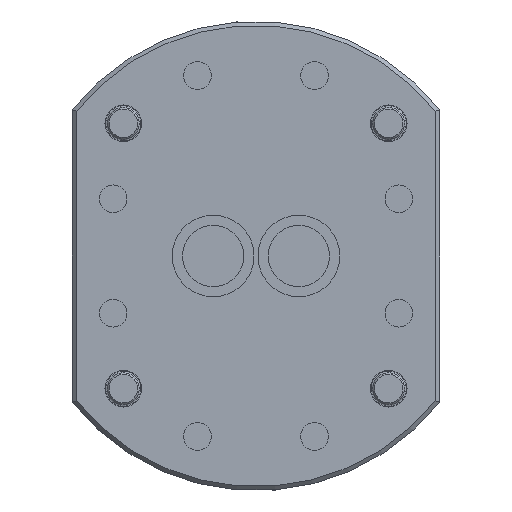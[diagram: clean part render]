
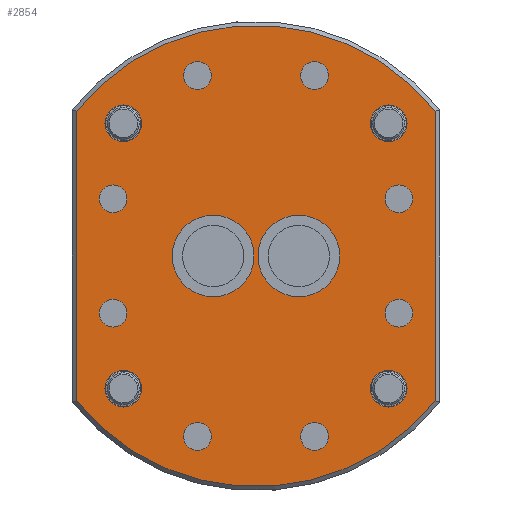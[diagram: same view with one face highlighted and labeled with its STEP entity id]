
A CAD part, front view. The second image highlights one B-rep face of the part: STEP entity #2854.
In plain terms, the highlighted planar face has unit normal (0, -1, 0).
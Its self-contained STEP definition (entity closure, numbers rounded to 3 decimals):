
#2854=ADVANCED_FACE('',(#5357,#5358,#5359,#5360,#5361,#5362,#5363,#5364,
#5365,#5366,#5367,#5368,#5369,#5370,#5371),#3738,.F.);
#3738=PLANE('',#14397);
#4103=LINE('',#19807,#4728);
#4104=LINE('',#19811,#4729);
#4728=VECTOR('',#15999,1.);
#4729=VECTOR('',#16002,1.);
#5357=FACE_BOUND('',#6036,.T.);
#5358=FACE_BOUND('',#6037,.T.);
#5359=FACE_BOUND('',#6038,.T.);
#5360=FACE_BOUND('',#6039,.T.);
#5361=FACE_BOUND('',#6040,.T.);
#5362=FACE_BOUND('',#6041,.T.);
#5363=FACE_BOUND('',#6042,.T.);
#5364=FACE_BOUND('',#6043,.T.);
#5365=FACE_BOUND('',#6044,.T.);
#5366=FACE_BOUND('',#6045,.T.);
#5367=FACE_BOUND('',#6046,.T.);
#5368=FACE_BOUND('',#6047,.T.);
#5369=FACE_BOUND('',#6048,.T.);
#5370=FACE_BOUND('',#6049,.T.);
#5371=FACE_BOUND('',#6050,.T.);
#6036=EDGE_LOOP('',(#7290));
#6037=EDGE_LOOP('',(#7291));
#6038=EDGE_LOOP('',(#7292));
#6039=EDGE_LOOP('',(#7293));
#6040=EDGE_LOOP('',(#7294));
#6041=EDGE_LOOP('',(#7295));
#6042=EDGE_LOOP('',(#7296));
#6043=EDGE_LOOP('',(#7297));
#6044=EDGE_LOOP('',(#7298));
#6045=EDGE_LOOP('',(#7299));
#6046=EDGE_LOOP('',(#7300));
#6047=EDGE_LOOP('',(#7301));
#6048=EDGE_LOOP('',(#7302,#7303,#7304,#7305));
#6049=EDGE_LOOP('',(#7306));
#6050=EDGE_LOOP('',(#7307));
#7290=ORIENTED_EDGE('',*,*,#11723,.T.);
#7291=ORIENTED_EDGE('',*,*,#11724,.T.);
#7292=ORIENTED_EDGE('',*,*,#11725,.T.);
#7293=ORIENTED_EDGE('',*,*,#11726,.T.);
#7294=ORIENTED_EDGE('',*,*,#11727,.T.);
#7295=ORIENTED_EDGE('',*,*,#11728,.T.);
#7296=ORIENTED_EDGE('',*,*,#11729,.T.);
#7297=ORIENTED_EDGE('',*,*,#11730,.T.);
#7298=ORIENTED_EDGE('',*,*,#11731,.T.);
#7299=ORIENTED_EDGE('',*,*,#11732,.T.);
#7300=ORIENTED_EDGE('',*,*,#11733,.F.);
#7301=ORIENTED_EDGE('',*,*,#11734,.F.);
#7302=ORIENTED_EDGE('',*,*,#11735,.T.);
#7303=ORIENTED_EDGE('',*,*,#11736,.T.);
#7304=ORIENTED_EDGE('',*,*,#11737,.T.);
#7305=ORIENTED_EDGE('',*,*,#11738,.T.);
#7306=ORIENTED_EDGE('',*,*,#11739,.T.);
#7307=ORIENTED_EDGE('',*,*,#11740,.T.);
#10608=VERTEX_POINT('',#19781);
#10609=VERTEX_POINT('',#19783);
#10610=VERTEX_POINT('',#19785);
#10611=VERTEX_POINT('',#19787);
#10612=VERTEX_POINT('',#19789);
#10613=VERTEX_POINT('',#19791);
#10614=VERTEX_POINT('',#19793);
#10615=VERTEX_POINT('',#19795);
#10616=VERTEX_POINT('',#19797);
#10617=VERTEX_POINT('',#19799);
#10618=VERTEX_POINT('',#19801);
#10619=VERTEX_POINT('',#19803);
#10620=VERTEX_POINT('',#19805);
#10621=VERTEX_POINT('',#19806);
#10622=VERTEX_POINT('',#19808);
#10623=VERTEX_POINT('',#19810);
#10624=VERTEX_POINT('',#19813);
#10625=VERTEX_POINT('',#19815);
#11723=EDGE_CURVE('',#10608,#10608,#13382,.T.);
#11724=EDGE_CURVE('',#10609,#10609,#13383,.T.);
#11725=EDGE_CURVE('',#10610,#10610,#13384,.T.);
#11726=EDGE_CURVE('',#10611,#10611,#13385,.T.);
#11727=EDGE_CURVE('',#10612,#10612,#13386,.T.);
#11728=EDGE_CURVE('',#10613,#10613,#13387,.T.);
#11729=EDGE_CURVE('',#10614,#10614,#13388,.T.);
#11730=EDGE_CURVE('',#10615,#10615,#13389,.T.);
#11731=EDGE_CURVE('',#10616,#10616,#13390,.T.);
#11732=EDGE_CURVE('',#10617,#10617,#13391,.T.);
#11733=EDGE_CURVE('',#10618,#10618,#13392,.T.);
#11734=EDGE_CURVE('',#10619,#10619,#13393,.T.);
#11735=EDGE_CURVE('',#10620,#10621,#13394,.T.);
#11736=EDGE_CURVE('',#10621,#10622,#4103,.T.);
#11737=EDGE_CURVE('',#10622,#10623,#13395,.T.);
#11738=EDGE_CURVE('',#10623,#10620,#4104,.T.);
#11739=EDGE_CURVE('',#10624,#10624,#13396,.T.);
#11740=EDGE_CURVE('',#10625,#10625,#13397,.T.);
#13382=CIRCLE('',#14381,3.4);
#13383=CIRCLE('',#14382,3.4);
#13384=CIRCLE('',#14383,3.4);
#13385=CIRCLE('',#14384,3.4);
#13386=CIRCLE('',#14385,3.4);
#13387=CIRCLE('',#14386,4.5);
#13388=CIRCLE('',#14387,4.5);
#13389=CIRCLE('',#14388,4.5);
#13390=CIRCLE('',#14389,4.5);
#13391=CIRCLE('',#14390,3.4);
#13392=CIRCLE('',#14391,10.);
#13393=CIRCLE('',#14392,10.);
#13394=CIRCLE('',#14393,56.5);
#13395=CIRCLE('',#14394,56.5);
#13396=CIRCLE('',#14395,3.4);
#13397=CIRCLE('',#14396,3.4);
#14381=AXIS2_PLACEMENT_3D('',#19780,#15973,#15974);
#14382=AXIS2_PLACEMENT_3D('',#19782,#15975,#15976);
#14383=AXIS2_PLACEMENT_3D('',#19784,#15977,#15978);
#14384=AXIS2_PLACEMENT_3D('',#19786,#15979,#15980);
#14385=AXIS2_PLACEMENT_3D('',#19788,#15981,#15982);
#14386=AXIS2_PLACEMENT_3D('',#19790,#15983,#15984);
#14387=AXIS2_PLACEMENT_3D('',#19792,#15985,#15986);
#14388=AXIS2_PLACEMENT_3D('',#19794,#15987,#15988);
#14389=AXIS2_PLACEMENT_3D('',#19796,#15989,#15990);
#14390=AXIS2_PLACEMENT_3D('',#19798,#15991,#15992);
#14391=AXIS2_PLACEMENT_3D('',#19800,#15993,#15994);
#14392=AXIS2_PLACEMENT_3D('',#19802,#15995,#15996);
#14393=AXIS2_PLACEMENT_3D('',#19804,#15997,#15998);
#14394=AXIS2_PLACEMENT_3D('',#19809,#16000,#16001);
#14395=AXIS2_PLACEMENT_3D('',#19812,#16003,#16004);
#14396=AXIS2_PLACEMENT_3D('',#19814,#16005,#16006);
#14397=AXIS2_PLACEMENT_3D('',#19816,#16007,#16008);
#15973=DIRECTION('',(0.,1.,0.));
#15974=DIRECTION('',(0.,0.,1.));
#15975=DIRECTION('',(0.,1.,0.));
#15976=DIRECTION('',(0.,0.,1.));
#15977=DIRECTION('',(0.,1.,0.));
#15978=DIRECTION('',(0.,0.,-1.));
#15979=DIRECTION('',(0.,1.,0.));
#15980=DIRECTION('',(0.,0.,-1.));
#15981=DIRECTION('',(0.,1.,0.));
#15982=DIRECTION('',(0.,0.,1.));
#15983=DIRECTION('',(0.,1.,0.));
#15984=DIRECTION('',(0.,0.,1.));
#15985=DIRECTION('',(0.,1.,0.));
#15986=DIRECTION('',(0.,0.,1.));
#15987=DIRECTION('',(0.,1.,0.));
#15988=DIRECTION('',(0.,0.,1.));
#15989=DIRECTION('',(0.,1.,0.));
#15990=DIRECTION('',(0.,0.,1.));
#15991=DIRECTION('',(0.,1.,0.));
#15992=DIRECTION('',(0.,0.,1.));
#15993=DIRECTION('',(0.,-1.,0.));
#15994=DIRECTION('',(1.,0.,0.));
#15995=DIRECTION('',(0.,-1.,0.));
#15996=DIRECTION('',(1.,0.,0.));
#15997=DIRECTION('',(0.,-1.,0.));
#15998=DIRECTION('',(0.,0.,1.));
#15999=DIRECTION('',(0.,0.,-1.));
#16000=DIRECTION('',(0.,-1.,0.));
#16001=DIRECTION('',(0.,0.,1.));
#16002=DIRECTION('',(0.,0.,1.));
#16003=DIRECTION('',(0.,1.,0.));
#16004=DIRECTION('',(0.,0.,1.));
#16005=DIRECTION('',(0.,1.,0.));
#16006=DIRECTION('',(0.,0.,1.));
#16007=DIRECTION('',(0.,1.,0.));
#16008=DIRECTION('',(0.,0.,-1.));
#19780=CARTESIAN_POINT('',(80.,-3.,-34.5));
#19781=CARTESIAN_POINT('',(80.,-3.,-31.1));
#19782=CARTESIAN_POINT('',(10.,-3.,-62.5));
#19783=CARTESIAN_POINT('',(10.,-3.,-59.1));
#19784=CARTESIAN_POINT('',(30.661,-3.,-92.682));
#19785=CARTESIAN_POINT('',(30.661,-3.,-96.082));
#19786=CARTESIAN_POINT('',(59.339,-3.,-92.682));
#19787=CARTESIAN_POINT('',(59.339,-3.,-96.082));
#19788=CARTESIAN_POINT('',(30.661,-3.,-4.318));
#19789=CARTESIAN_POINT('',(30.661,-3.,-0.918));
#19790=CARTESIAN_POINT('',(77.5,-3.,-16.));
#19791=CARTESIAN_POINT('',(77.5,-3.,-11.5));
#19792=CARTESIAN_POINT('',(77.5,-3.,-81.));
#19793=CARTESIAN_POINT('',(77.5,-3.,-76.5));
#19794=CARTESIAN_POINT('',(12.5,-3.,-81.));
#19795=CARTESIAN_POINT('',(12.5,-3.,-76.5));
#19796=CARTESIAN_POINT('',(12.5,-3.,-16.));
#19797=CARTESIAN_POINT('',(12.5,-3.,-11.5));
#19798=CARTESIAN_POINT('',(59.339,-3.,-4.318));
#19799=CARTESIAN_POINT('',(59.339,-3.,-0.918));
#19800=CARTESIAN_POINT('',(34.51,-3.,-48.5));
#19801=CARTESIAN_POINT('',(44.51,-3.,-48.5));
#19802=CARTESIAN_POINT('',(55.49,-3.,-48.5));
#19803=CARTESIAN_POINT('',(65.49,-3.,-48.5));
#19804=CARTESIAN_POINT('',(45.,-3.,-48.5));
#19805=CARTESIAN_POINT('',(89.,-3.,-13.056));
#19806=CARTESIAN_POINT('',(1.,-3.,-13.056));
#19807=CARTESIAN_POINT('',(1.,-3.,-97.));
#19808=CARTESIAN_POINT('',(1.,-3.,-83.944));
#19809=CARTESIAN_POINT('',(45.,-3.,-48.5));
#19810=CARTESIAN_POINT('',(89.,-3.,-83.944));
#19811=CARTESIAN_POINT('',(89.,-3.,-97.));
#19812=CARTESIAN_POINT('',(10.,-3.,-34.5));
#19813=CARTESIAN_POINT('',(10.,-3.,-31.1));
#19814=CARTESIAN_POINT('',(80.,-3.,-62.5));
#19815=CARTESIAN_POINT('',(80.,-3.,-59.1));
#19816=CARTESIAN_POINT('',(0.,-3.,-97.));
